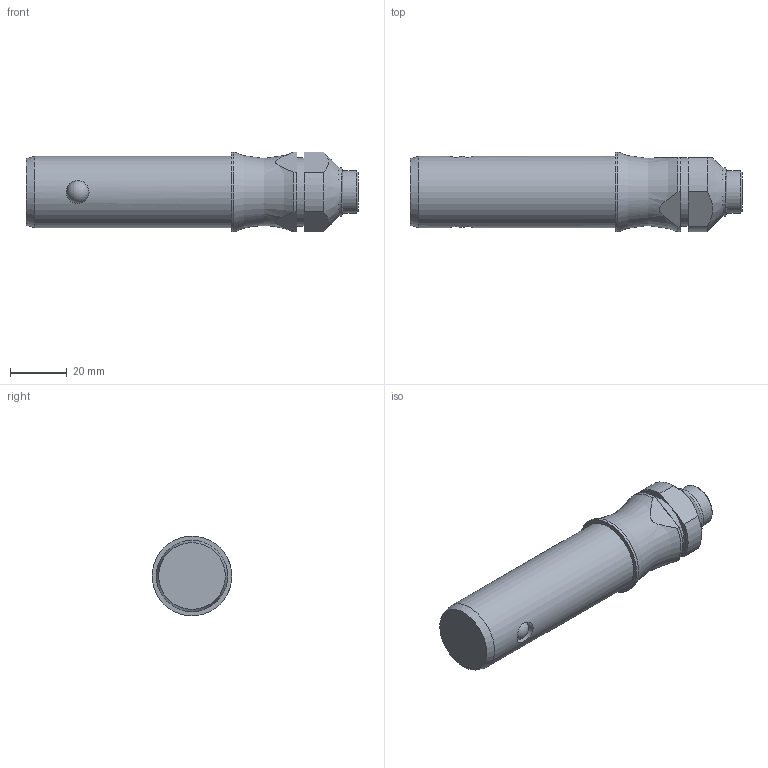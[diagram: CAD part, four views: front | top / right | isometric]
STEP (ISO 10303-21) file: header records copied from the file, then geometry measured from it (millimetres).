
FILE_DESCRIPTION( ( 'STEP AP203' ), '1' );
FILE_NAME( 'C:/Temp/Ganter_Step_05_03_2020/data/3_1/gn113_3/Stainless Steel-Ball lock pin GN 113.3-25-50 (activated).stp', '2020-03-12T08:19:09', ( 'License CC BY-ND 4.0' ), ( 'CADENAS' ), ' ', 'PARTsolutions', ' ' );
FILE_SCHEMA( ( 'CONFIG_CONTROL_DESIGN' ) );
Length unit declared in the file: millimetre
Products named in the file (1): _Stainless Steel-Ball lock pin GN 113.3-25-50 (activated)
Bounding box: 116.55 x 28 x 28 mm (x, y, z)
Volume: 54944.9 mm3; surface area: 10398.9 mm2
Topology: 1 solids, 1 shells, 31 faces, 74 edges, 46 vertices
Faces by surface type: cylinder 13, plane 11, cone 4, sphere 2, torus 1
Full cylindrical faces by diameter (mm): 8 x2, 15 x1, 17 x1, 24 x1, 25 x1, 28 x1
Entity records: 1046 total; most frequent: CARTESIAN_POINT 382, DIRECTION 134, ORIENTED_EDGE 104, AXIS2_PLACEMENT_3D 58, EDGE_CURVE 52, EDGE_LOOP 48, VERTEX_POINT 40, FACE_OUTER_BOUND 39
